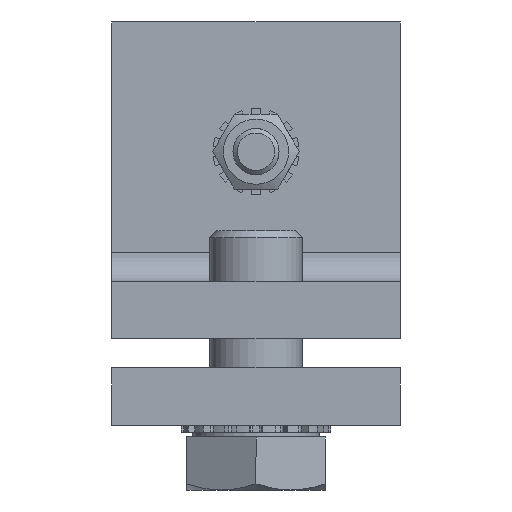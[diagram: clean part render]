
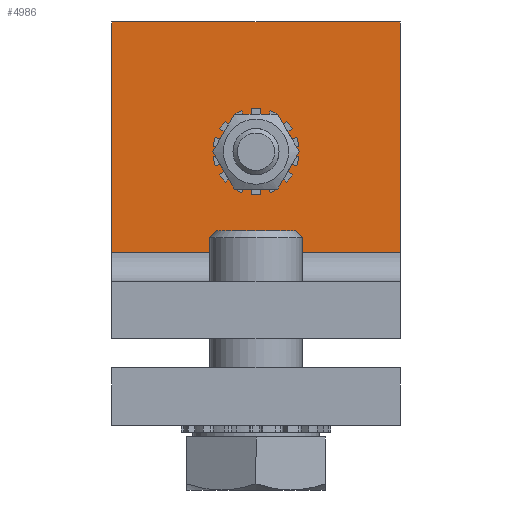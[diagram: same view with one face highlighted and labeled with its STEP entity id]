
A CAD part, front view. The second image highlights one B-rep face of the part: STEP entity #4986.
In plain terms, the highlighted planar face has unit normal (0, -1, 0).
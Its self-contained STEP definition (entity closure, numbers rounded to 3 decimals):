
#148=FACE_BOUND('',#969,.T.);
#192=CIRCLE('',#5276,4.25);
#668=FACE_OUTER_BOUND('',#968,.T.);
#968=EDGE_LOOP('',(#3409,#3410,#3411,#3412));
#969=EDGE_LOOP('',(#3413));
#1303=LINE('',#7595,#1701);
#1315=LINE('',#7629,#1713);
#1316=LINE('',#7631,#1714);
#1317=LINE('',#7632,#1715);
#1701=VECTOR('',#5943,50.);
#1713=VECTOR('',#5981,40.002);
#1714=VECTOR('',#5982,50.);
#1715=VECTOR('',#5983,40.002);
#2091=VERTEX_POINT('',#7572);
#2093=VERTEX_POINT('',#7577);
#2098=VERTEX_POINT('',#7587);
#2109=VERTEX_POINT('',#7628);
#2110=VERTEX_POINT('',#7630);
#2602=EDGE_CURVE('',#2091,#2091,#192,.T.);
#2612=EDGE_CURVE('',#2093,#2098,#1303,.T.);
#2628=EDGE_CURVE('',#2109,#2098,#1315,.T.);
#2629=EDGE_CURVE('',#2110,#2109,#1316,.T.);
#2630=EDGE_CURVE('',#2093,#2110,#1317,.T.);
#3409=ORIENTED_EDGE('',*,*,#2612,.T.);
#3410=ORIENTED_EDGE('',*,*,#2628,.F.);
#3411=ORIENTED_EDGE('',*,*,#2629,.F.);
#3412=ORIENTED_EDGE('',*,*,#2630,.F.);
#3413=ORIENTED_EDGE('',*,*,#2602,.T.);
#4849=PLANE('',#5297);
#4986=ADVANCED_FACE('',(#668,#148),#4849,.T.);
#5276=AXIS2_PLACEMENT_3D('',#7573,#5921,#5922);
#5297=AXIS2_PLACEMENT_3D('',#7627,#5979,#5980);
#5921=DIRECTION('center_axis',(0.,1.,0.));
#5922=DIRECTION('ref_axis',(1.,0.,0.));
#5943=DIRECTION('',(1.,0.,0.));
#5979=DIRECTION('center_axis',(0.,-1.,0.));
#5980=DIRECTION('ref_axis',(1.,0.,0.));
#5981=DIRECTION('',(0.,0.,-1.));
#5982=DIRECTION('',(1.,0.,0.));
#5983=DIRECTION('',(0.,0.,1.));
#7572=CARTESIAN_POINT('',(4.25,28.5,32.502));
#7573=CARTESIAN_POINT('Origin',(0.,28.5,32.502));
#7577=CARTESIAN_POINT('',(-25.,28.5,15.));
#7587=CARTESIAN_POINT('',(25.,28.5,15.));
#7595=CARTESIAN_POINT('',(-12.5,28.5,15.));
#7627=CARTESIAN_POINT('Origin',(0.,28.5,-21.498));
#7628=CARTESIAN_POINT('',(25.,28.5,55.002));
#7629=CARTESIAN_POINT('',(25.,28.5,55.002));
#7630=CARTESIAN_POINT('',(-25.,28.5,55.002));
#7631=CARTESIAN_POINT('',(-25.,28.5,55.002));
#7632=CARTESIAN_POINT('',(-25.,28.5,-97.998));
